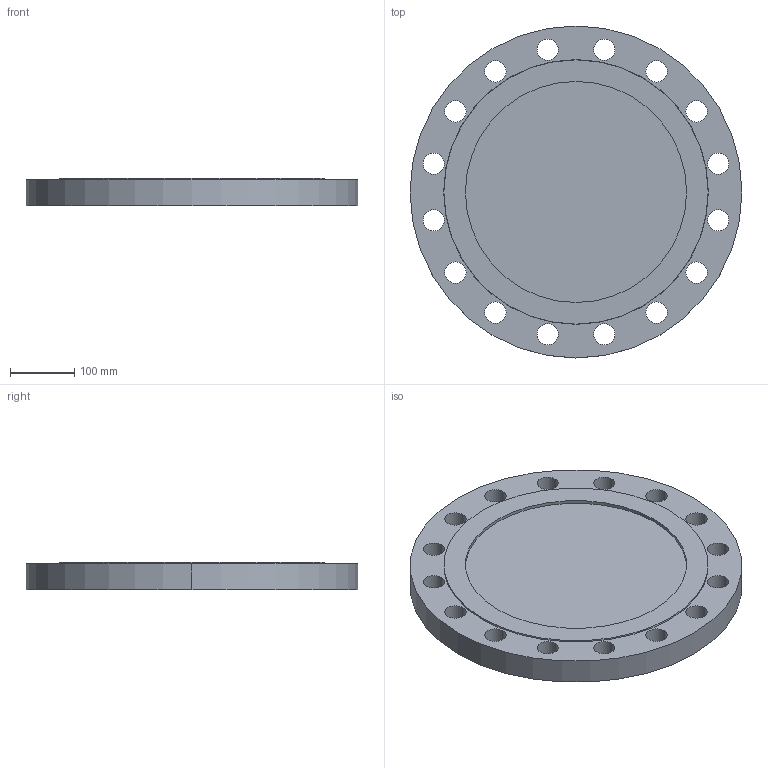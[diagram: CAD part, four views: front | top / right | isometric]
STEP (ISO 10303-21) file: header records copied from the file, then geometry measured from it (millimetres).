
FILE_DESCRIPTION (( 'STEP AP214' ), '1' );
FILE_NAME ('PN40 DN300 Type 05 - Type G Face.STEP', '2019-01-05T20:26:33', ( '' ), ( '' ), 'SwSTEP 2.0', 'SolidWorks 2019', '' );
FILE_SCHEMA (( 'AUTOMOTIVE_DESIGN' ));
Length unit declared in the file: millimetre
Products named in the file (1): PN40 DN300 Type 05 - Type G Face
Bounding box: 515 x 515 x 42 mm (x, y, z)
Volume: 7587396.8 mm3; surface area: 527863.4 mm2
Topology: 1 solids, 1 shells, 42 faces, 114 edges, 76 vertices
Faces by surface type: cylinder 36, plane 4, cone 2
Entity records: 1472 total; most frequent: DIRECTION 276, CARTESIAN_POINT 233, ORIENTED_EDGE 228, AXIS2_PLACEMENT_3D 119, EDGE_CURVE 114, CIRCLE 76, EDGE_LOOP 76, VERTEX_POINT 76
